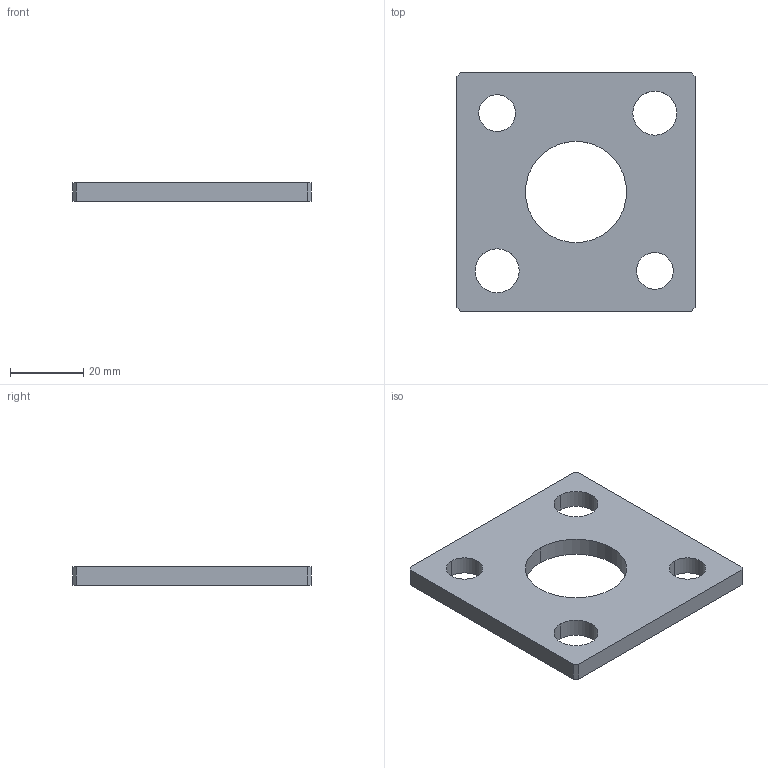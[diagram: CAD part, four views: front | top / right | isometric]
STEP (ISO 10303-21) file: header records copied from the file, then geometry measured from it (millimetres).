
FILE_DESCRIPTION(/* description */ (''),/* implementation_level */ '2;1');
FILE_NAME(/* name */ '3d_mdsp38_04300_r00.stp',/* time_stamp */ '2011-01-10T14:13:53+09:00',/* author */ ('MISUMI'),/* organization */ (''),/* preprocessor_version */ 'ST-DEVELOPER v11',/* originating_system */ 'UGS - NX 5.0',/* authorisation */ '');
FILE_SCHEMA (('CONFIG_CONTROL_DESIGN'));
Length unit declared in the file: millimetre
Products named in the file (1): 3d_mdsp38_04300_r00
Bounding box: 65 x 65 x 5 mm (x, y, z)
Volume: 16207.2 mm3; surface area: 8895.9 mm2
Topology: 1 solids, 1 shells, 20 faces, 54 edges, 36 vertices
Faces by surface type: plane 10, cylinder 10
Entity records: 744 total; most frequent: DIRECTION 116, CARTESIAN_POINT 111, ORIENTED_EDGE 108, EDGE_CURVE 54, AXIS2_PLACEMENT_3D 41, VERTEX_POINT 36, LINE 34, VECTOR 34
